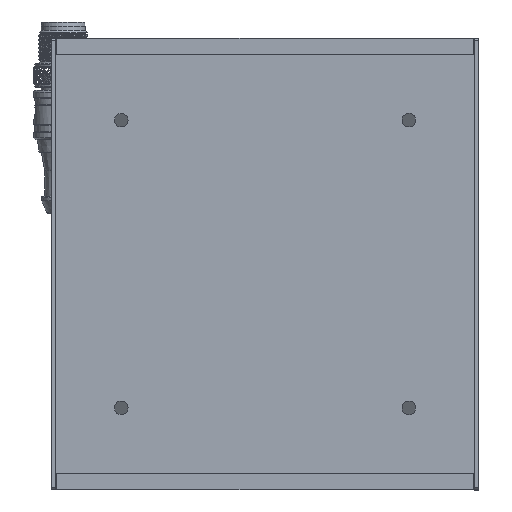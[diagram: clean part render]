
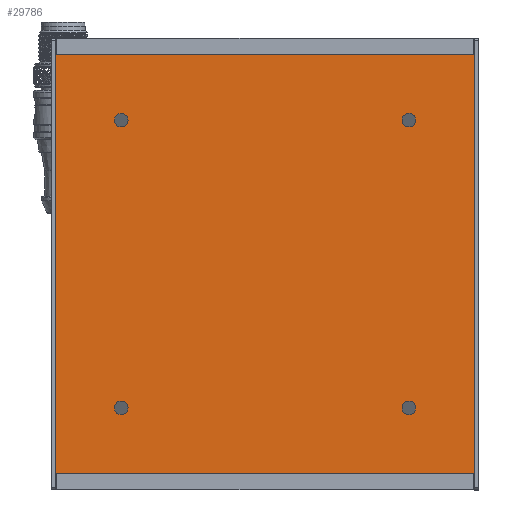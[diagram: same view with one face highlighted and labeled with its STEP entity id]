
A CAD part, left-side view. The second image highlights one B-rep face of the part: STEP entity #29786.
In plain terms, the highlighted planar face has unit normal (-1, 0, 0).
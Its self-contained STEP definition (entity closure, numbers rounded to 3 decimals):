
#5820 = VERTEX_POINT ( 'NONE', #25821 ) ;
#5838 = VERTEX_POINT ( 'NONE', #25809 ) ;
#5883 = VERTEX_POINT ( 'NONE', #25807 ) ;
#5918 = VERTEX_POINT ( 'NONE', #25948 ) ;
#10220 = AXIS2_PLACEMENT_3D ( 'NONE', #47576, #47607, #47560 ) ;
#12312 = DIRECTION ( 'NONE',  ( 0., 0., 1. ) ) ;
#12356 = DIRECTION ( 'NONE',  ( -1., 0., 0. ) ) ;
#12373 = CARTESIAN_POINT ( 'NONE',  ( -71.5, -86., -35. ) ) ;
#12565 = DIRECTION ( 'NONE',  ( 0., 0., 1. ) ) ;
#12592 = LINE ( 'NONE', #12622, #48174 ) ;
#12596 = CARTESIAN_POINT ( 'NONE',  ( -71.5, -16., 35. ) ) ;
#12597 = DIRECTION ( 'NONE',  ( -1., 0., 0. ) ) ;
#12611 = DIRECTION ( 'NONE',  ( 0., 1., 0. ) ) ;
#12622 = CARTESIAN_POINT ( 'NONE',  ( -71.5, 0., 51. ) ) ;
#12631 = LINE ( 'NONE', #12666, #48214 ) ;
#12643 = LINE ( 'NONE', #12677, #48179 ) ;
#12664 = DIRECTION ( 'NONE',  ( 0., -1., 0. ) ) ;
#12666 = CARTESIAN_POINT ( 'NONE',  ( -71.5, 0., -51. ) ) ;
#12668 = DIRECTION ( 'NONE',  ( 0., 0., -1. ) ) ;
#12677 = CARTESIAN_POINT ( 'NONE',  ( -71.5, 0., -51. ) ) ;
#12718 = DIRECTION ( 'NONE',  ( 0., 0., 1. ) ) ;
#12771 = CARTESIAN_POINT ( 'NONE',  ( -71.5, -86., 35. ) ) ;
#12774 = DIRECTION ( 'NONE',  ( -1., 0., 0. ) ) ;
#12776 = DIRECTION ( 'NONE',  ( -1., 0., 0. ) ) ;
#12778 = DIRECTION ( 'NONE',  ( 0., 0., 1. ) ) ;
#12787 = CARTESIAN_POINT ( 'NONE',  ( -71.5, -16., -35. ) ) ;
#12990 = CARTESIAN_POINT ( 'NONE',  ( -71.5, -102., -51. ) ) ;
#12991 = DIRECTION ( 'NONE',  ( 0., 0., 1. ) ) ;
#12997 = LINE ( 'NONE', #12990, #48287 ) ;
#22372 = EDGE_LOOP ( 'NONE', ( #61606, #61692, #61641, #61784 ) ) ;
#22414 = EDGE_LOOP ( 'NONE', ( #61808 ) ) ;
#22428 = EDGE_LOOP ( 'NONE', ( #61600 ) ) ;
#22448 = EDGE_LOOP ( 'NONE', ( #61790 ) ) ;
#22463 = EDGE_LOOP ( 'NONE', ( #61643 ) ) ;
#25807 = CARTESIAN_POINT ( 'NONE',  ( -71.5, -102., -51. ) ) ;
#25809 = CARTESIAN_POINT ( 'NONE',  ( -71.5, -102., 51. ) ) ;
#25821 = CARTESIAN_POINT ( 'NONE',  ( -71.5, 0., 51. ) ) ;
#25948 = CARTESIAN_POINT ( 'NONE',  ( -71.5, 0., -51. ) ) ;
#29786 = ADVANCED_FACE ( 'NONE', ( #47592, #47570, #47613, #47579, #47599 ), #47605, .T. ) ;
#33058 = EDGE_CURVE ( 'NONE', #41234, #41234, #48163, .T. ) ;
#33084 = EDGE_CURVE ( 'NONE', #5838, #5820, #12592, .T. ) ;
#33085 = EDGE_CURVE ( 'NONE', #41235, #41235, #48176, .T. ) ;
#33100 = EDGE_CURVE ( 'NONE', #5918, #5883, #12631, .T. ) ;
#33102 = EDGE_CURVE ( 'NONE', #5820, #5918, #12643, .T. ) ;
#33112 = EDGE_CURVE ( 'NONE', #41255, #41255, #48280, .T. ) ;
#33120 = EDGE_CURVE ( 'NONE', #41281, #41281, #48248, .T. ) ;
#33174 = EDGE_CURVE ( 'NONE', #5883, #5838, #12997, .T. ) ;
#41202 = CARTESIAN_POINT ( 'NONE',  ( -71.5, -16., 36.65 ) ) ;
#41222 = CARTESIAN_POINT ( 'NONE',  ( -71.5, -86., -33.35 ) ) ;
#41234 = VERTEX_POINT ( 'NONE', #41222 ) ;
#41235 = VERTEX_POINT ( 'NONE', #41202 ) ;
#41245 = CARTESIAN_POINT ( 'NONE',  ( -71.5, -86., 36.65 ) ) ;
#41255 = VERTEX_POINT ( 'NONE', #41245 ) ;
#41263 = CARTESIAN_POINT ( 'NONE',  ( -71.5, -16., -33.35 ) ) ;
#41281 = VERTEX_POINT ( 'NONE', #41263 ) ;
#47560 = DIRECTION ( 'NONE',  ( 0., 0., 1. ) ) ;
#47570 = FACE_BOUND ( 'NONE', #22448, .T. ) ;
#47576 = CARTESIAN_POINT ( 'NONE',  ( -71.5, -102., -51. ) ) ;
#47579 = FACE_BOUND ( 'NONE', #22414, .T. ) ;
#47592 = FACE_BOUND ( 'NONE', #22463, .T. ) ;
#47599 = FACE_OUTER_BOUND ( 'NONE', #22372, .T. ) ;
#47605 = PLANE ( 'NONE',  #10220 ) ;
#47607 = DIRECTION ( 'NONE',  ( -1., 0., 0. ) ) ;
#47613 = FACE_BOUND ( 'NONE', #22428, .T. ) ;
#48158 = AXIS2_PLACEMENT_3D ( 'NONE', #12373, #12356, #12312 ) ;
#48163 = CIRCLE ( 'NONE', #48158, 1.65 ) ;
#48174 = VECTOR ( 'NONE', #12611, 1000. ) ;
#48176 = CIRCLE ( 'NONE', #48207, 1.65 ) ;
#48179 = VECTOR ( 'NONE', #12668, 1000. ) ;
#48207 = AXIS2_PLACEMENT_3D ( 'NONE', #12596, #12597, #12565 ) ;
#48214 = VECTOR ( 'NONE', #12664, 1000. ) ;
#48240 = AXIS2_PLACEMENT_3D ( 'NONE', #12787, #12774, #12778 ) ;
#48248 = CIRCLE ( 'NONE', #48240, 1.65 ) ;
#48271 = AXIS2_PLACEMENT_3D ( 'NONE', #12771, #12776, #12718 ) ;
#48280 = CIRCLE ( 'NONE', #48271, 1.65 ) ;
#48287 = VECTOR ( 'NONE', #12991, 1000. ) ;
#61600 = ORIENTED_EDGE ( 'NONE', *, *, #33112, .F. ) ;
#61606 = ORIENTED_EDGE ( 'NONE', *, *, #33100, .T. ) ;
#61641 = ORIENTED_EDGE ( 'NONE', *, *, #33084, .T. ) ;
#61643 = ORIENTED_EDGE ( 'NONE', *, *, #33120, .F. ) ;
#61692 = ORIENTED_EDGE ( 'NONE', *, *, #33174, .T. ) ;
#61784 = ORIENTED_EDGE ( 'NONE', *, *, #33102, .T. ) ;
#61790 = ORIENTED_EDGE ( 'NONE', *, *, #33058, .F. ) ;
#61808 = ORIENTED_EDGE ( 'NONE', *, *, #33085, .F. ) ;
